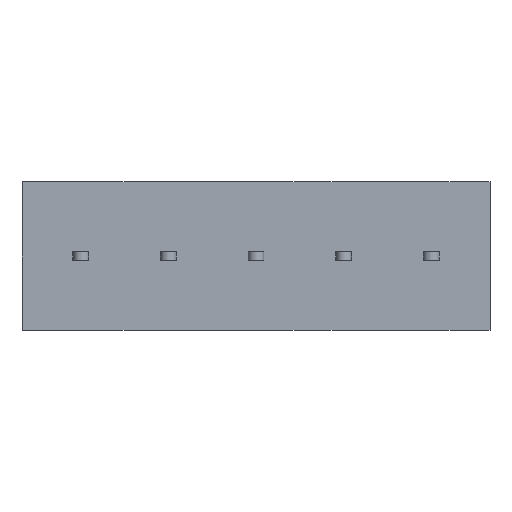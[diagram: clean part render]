
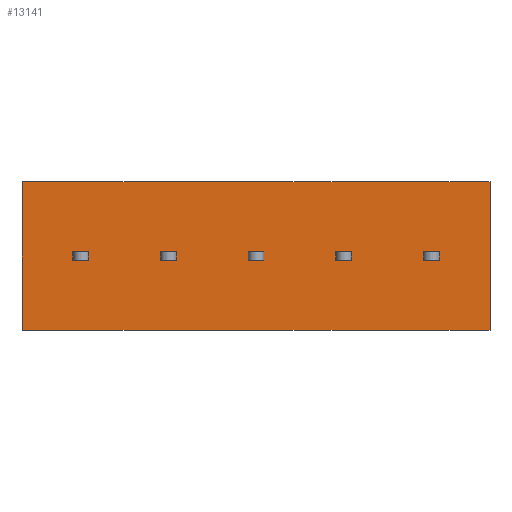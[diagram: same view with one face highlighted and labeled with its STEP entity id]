
A CAD part, front view. The second image highlights one B-rep face of the part: STEP entity #13141.
In plain terms, the highlighted planar face has unit normal (0, -1, 0).
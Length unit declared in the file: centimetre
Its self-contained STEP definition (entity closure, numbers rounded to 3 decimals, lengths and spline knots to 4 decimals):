
#808=VERTEX_POINT('',#16941);
#809=VERTEX_POINT('',#16942);
#812=VERTEX_POINT('',#16950);
#840=VERTEX_POINT('',#17021);
#890=VERTEX_POINT('',#17226);
#891=VERTEX_POINT('',#17227);
#894=VERTEX_POINT('',#17235);
#922=VERTEX_POINT('',#17306);
#972=VERTEX_POINT('',#17511);
#973=VERTEX_POINT('',#17512);
#976=VERTEX_POINT('',#17520);
#1004=VERTEX_POINT('',#17591);
#1054=VERTEX_POINT('',#17796);
#1055=VERTEX_POINT('',#17797);
#1058=VERTEX_POINT('',#17805);
#1086=VERTEX_POINT('',#17876);
#1182=VERTEX_POINT('',#18212);
#1189=VERTEX_POINT('',#18225);
#1402=VERTEX_POINT('',#18898);
#1403=VERTEX_POINT('',#18899);
#1406=VERTEX_POINT('',#18907);
#1417=VERTEX_POINT('',#18942);
#1756=VERTEX_POINT('',#20455);
#1757=VERTEX_POINT('',#20457);
#2126=VECTOR('',#14240,1.);
#2130=VECTOR('',#14245,1.);
#2155=VECTOR('',#14301,1.);
#2157=VECTOR('',#14304,1.);
#2198=VECTOR('',#14458,1.);
#2202=VECTOR('',#14463,1.);
#2227=VECTOR('',#14519,1.);
#2229=VECTOR('',#14522,1.);
#2270=VECTOR('',#14676,1.);
#2274=VECTOR('',#14681,1.);
#2299=VECTOR('',#14737,1.);
#2301=VECTOR('',#14740,1.);
#2342=VECTOR('',#14894,1.);
#2346=VECTOR('',#14899,1.);
#2371=VECTOR('',#14955,1.);
#2373=VECTOR('',#14958,1.);
#2478=VECTOR('',#15216,1.);
#2720=VECTOR('',#15728,1.);
#2724=VECTOR('',#15733,1.);
#2735=VECTOR('',#15766,1.);
#2737=VECTOR('',#15769,1.);
#3146=VECTOR('',#16317,1.);
#3182=VECTOR('',#16372,1.);
#3183=VECTOR('',#16373,1.);
#3594=LINE('',#16940,#2126);
#3598=LINE('',#16949,#2130);
#3623=LINE('',#17020,#2155);
#3625=LINE('',#17024,#2157);
#3666=LINE('',#17225,#2198);
#3670=LINE('',#17234,#2202);
#3695=LINE('',#17305,#2227);
#3697=LINE('',#17309,#2229);
#3738=LINE('',#17510,#2270);
#3742=LINE('',#17519,#2274);
#3767=LINE('',#17590,#2299);
#3769=LINE('',#17594,#2301);
#3810=LINE('',#17795,#2342);
#3814=LINE('',#17804,#2346);
#3839=LINE('',#17875,#2371);
#3841=LINE('',#17879,#2373);
#3946=LINE('',#18226,#2478);
#4188=LINE('',#18897,#2720);
#4192=LINE('',#18906,#2724);
#4203=LINE('',#18941,#2735);
#4205=LINE('',#18945,#2737);
#4614=LINE('',#20456,#3146);
#4650=LINE('',#20536,#3182);
#4651=LINE('',#20537,#3183);
#5062=EDGE_CURVE('',#808,#809,#3594,.T.);
#5066=EDGE_CURVE('',#812,#808,#3598,.T.);
#5101=EDGE_CURVE('',#840,#812,#3623,.T.);
#5103=EDGE_CURVE('',#809,#840,#3625,.T.);
#5184=EDGE_CURVE('',#890,#891,#3666,.T.);
#5188=EDGE_CURVE('',#894,#890,#3670,.T.);
#5223=EDGE_CURVE('',#922,#894,#3695,.T.);
#5225=EDGE_CURVE('',#891,#922,#3697,.T.);
#5306=EDGE_CURVE('',#972,#973,#3738,.T.);
#5310=EDGE_CURVE('',#976,#972,#3742,.T.);
#5345=EDGE_CURVE('',#1004,#976,#3767,.T.);
#5347=EDGE_CURVE('',#973,#1004,#3769,.T.);
#5428=EDGE_CURVE('',#1054,#1055,#3810,.T.);
#5432=EDGE_CURVE('',#1058,#1054,#3814,.T.);
#5467=EDGE_CURVE('',#1086,#1058,#3839,.T.);
#5469=EDGE_CURVE('',#1055,#1086,#3841,.T.);
#5622=EDGE_CURVE('',#1189,#1182,#3946,.T.);
#5938=EDGE_CURVE('',#1402,#1403,#4188,.T.);
#5942=EDGE_CURVE('',#1406,#1402,#4192,.T.);
#5959=EDGE_CURVE('',#1417,#1406,#4203,.T.);
#5961=EDGE_CURVE('',#1403,#1417,#4205,.T.);
#6474=EDGE_CURVE('',#1757,#1756,#4614,.T.);
#6514=EDGE_CURVE('',#1756,#1182,#4650,.T.);
#6515=EDGE_CURVE('',#1189,#1757,#4651,.T.);
#9848=ORIENTED_EDGE('',*,*,#5066,.T.);
#9849=ORIENTED_EDGE('',*,*,#5062,.T.);
#9850=ORIENTED_EDGE('',*,*,#5103,.T.);
#9851=ORIENTED_EDGE('',*,*,#5101,.T.);
#9852=ORIENTED_EDGE('',*,*,#5188,.T.);
#9853=ORIENTED_EDGE('',*,*,#5184,.T.);
#9854=ORIENTED_EDGE('',*,*,#5225,.T.);
#9855=ORIENTED_EDGE('',*,*,#5223,.T.);
#9856=ORIENTED_EDGE('',*,*,#5310,.T.);
#9857=ORIENTED_EDGE('',*,*,#5306,.T.);
#9858=ORIENTED_EDGE('',*,*,#5347,.T.);
#9859=ORIENTED_EDGE('',*,*,#5345,.T.);
#9860=ORIENTED_EDGE('',*,*,#5432,.T.);
#9861=ORIENTED_EDGE('',*,*,#5428,.T.);
#9862=ORIENTED_EDGE('',*,*,#5469,.T.);
#9863=ORIENTED_EDGE('',*,*,#5467,.T.);
#9864=ORIENTED_EDGE('',*,*,#5942,.T.);
#9865=ORIENTED_EDGE('',*,*,#5938,.T.);
#9866=ORIENTED_EDGE('',*,*,#5961,.T.);
#9867=ORIENTED_EDGE('',*,*,#5959,.T.);
#9868=ORIENTED_EDGE('',*,*,#6514,.T.);
#9869=ORIENTED_EDGE('',*,*,#5622,.F.);
#9870=ORIENTED_EDGE('',*,*,#6515,.T.);
#9871=ORIENTED_EDGE('',*,*,#6474,.T.);
#11569=EDGE_LOOP('',(#9848,#9849,#9850,#9851));
#11570=EDGE_LOOP('',(#9852,#9853,#9854,#9855));
#11571=EDGE_LOOP('',(#9856,#9857,#9858,#9859));
#11572=EDGE_LOOP('',(#9860,#9861,#9862,#9863));
#11573=EDGE_LOOP('',(#9864,#9865,#9866,#9867));
#11574=EDGE_LOOP('',(#9868,#9869,#9870,#9871));
#12385=FACE_BOUND('',#11569,.T.);
#12386=FACE_BOUND('',#11570,.T.);
#12387=FACE_BOUND('',#11571,.T.);
#12388=FACE_BOUND('',#11572,.T.);
#12389=FACE_BOUND('',#11573,.T.);
#12390=FACE_BOUND('',#11574,.T.);
#13141=ADVANCED_FACE('',(#12385,#12386,#12387,#12388,#12389,#12390),#22449,
 .T.);
#14091=AXIS2_PLACEMENT_3D('',#20535,#16371,$);
#14240=DIRECTION('',(0.,0.,1.));
#14245=DIRECTION('',(-1.,0.,0.));
#14301=DIRECTION('',(0.,0.,-1.));
#14304=DIRECTION('',(1.,0.,0.));
#14458=DIRECTION('',(0.,0.,1.));
#14463=DIRECTION('',(-1.,0.,0.));
#14519=DIRECTION('',(0.,0.,-1.));
#14522=DIRECTION('',(1.,0.,0.));
#14676=DIRECTION('',(0.,0.,1.));
#14681=DIRECTION('',(-1.,0.,0.));
#14737=DIRECTION('',(0.,0.,-1.));
#14740=DIRECTION('',(1.,0.,0.));
#14894=DIRECTION('',(0.,0.,1.));
#14899=DIRECTION('',(-1.,0.,0.));
#14955=DIRECTION('',(0.,0.,-1.));
#14958=DIRECTION('',(1.,0.,0.));
#15216=DIRECTION('',(0.,0.,-1.));
#15728=DIRECTION('',(0.,0.,1.));
#15733=DIRECTION('',(-1.,0.,0.));
#15766=DIRECTION('',(0.,0.,-1.));
#15769=DIRECTION('',(1.,0.,0.));
#16317=DIRECTION('',(0.,0.,-1.));
#16371=DIRECTION('',(0.,-1.,0.));
#16372=DIRECTION('',(1.,0.,0.));
#16373=DIRECTION('',(-1.,0.,0.));
#16940=CARTESIAN_POINT('',(4.5,0.,-0.175));
#16941=CARTESIAN_POINT('',(4.5,0.,-0.05));
#16942=CARTESIAN_POINT('',(4.5,0.,0.05));
#16949=CARTESIAN_POINT('',(2.295,0.,-0.05));
#16950=CARTESIAN_POINT('',(4.68,0.,-0.05));
#17020=CARTESIAN_POINT('',(4.68,0.,-0.175));
#17021=CARTESIAN_POINT('',(4.68,0.,0.05));
#17024=CARTESIAN_POINT('',(2.295,0.,0.05));
#17225=CARTESIAN_POINT('',(3.5,0.,-0.175));
#17226=CARTESIAN_POINT('',(3.5,0.,-0.05));
#17227=CARTESIAN_POINT('',(3.5,0.,0.05));
#17234=CARTESIAN_POINT('',(1.795,0.,-0.05));
#17235=CARTESIAN_POINT('',(3.68,0.,-0.05));
#17305=CARTESIAN_POINT('',(3.68,0.,-0.175));
#17306=CARTESIAN_POINT('',(3.68,0.,0.05));
#17309=CARTESIAN_POINT('',(1.795,0.,0.05));
#17510=CARTESIAN_POINT('',(2.5,0.,-0.175));
#17511=CARTESIAN_POINT('',(2.5,0.,-0.05));
#17512=CARTESIAN_POINT('',(2.5,0.,0.05));
#17519=CARTESIAN_POINT('',(1.295,0.,-0.05));
#17520=CARTESIAN_POINT('',(2.68,0.,-0.05));
#17590=CARTESIAN_POINT('',(2.68,0.,-0.175));
#17591=CARTESIAN_POINT('',(2.68,0.,0.05));
#17594=CARTESIAN_POINT('',(1.295,0.,0.05));
#17795=CARTESIAN_POINT('',(1.5,0.,-0.175));
#17796=CARTESIAN_POINT('',(1.5,0.,-0.05));
#17797=CARTESIAN_POINT('',(1.5,0.,0.05));
#17804=CARTESIAN_POINT('',(0.795,0.,-0.05));
#17805=CARTESIAN_POINT('',(1.68,0.,-0.05));
#17875=CARTESIAN_POINT('',(1.68,0.,-0.175));
#17876=CARTESIAN_POINT('',(1.68,0.,0.05));
#17879=CARTESIAN_POINT('',(0.795,0.,0.05));
#18212=CARTESIAN_POINT('',(5.26,0.,-0.85));
#18225=CARTESIAN_POINT('',(5.26,0.,0.85));
#18226=CARTESIAN_POINT('',(5.26,0.,0.85));
#18897=CARTESIAN_POINT('',(0.5,0.,-0.175));
#18898=CARTESIAN_POINT('',(0.5,0.,-0.05));
#18899=CARTESIAN_POINT('',(0.5,0.,0.05));
#18906=CARTESIAN_POINT('',(0.295,0.,-0.05));
#18907=CARTESIAN_POINT('',(0.68,0.,-0.05));
#18941=CARTESIAN_POINT('',(0.68,0.,-0.175));
#18942=CARTESIAN_POINT('',(0.68,0.,0.05));
#18945=CARTESIAN_POINT('',(0.295,0.,0.05));
#20455=CARTESIAN_POINT('',(-0.08,0.,-0.85));
#20456=CARTESIAN_POINT('',(-0.08,0.,0.85));
#20457=CARTESIAN_POINT('',(-0.08,0.,0.85));
#20535=CARTESIAN_POINT('',(0.,0.,0.));
#20536=CARTESIAN_POINT('',(4.,0.,-0.85));
#20537=CARTESIAN_POINT('',(0.,0.,0.85));
#22449=PLANE('',#14091);
